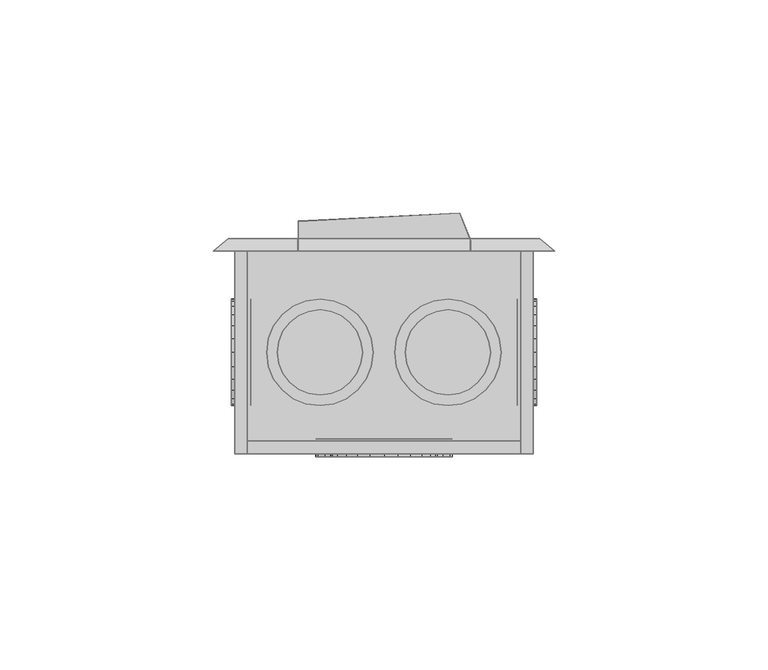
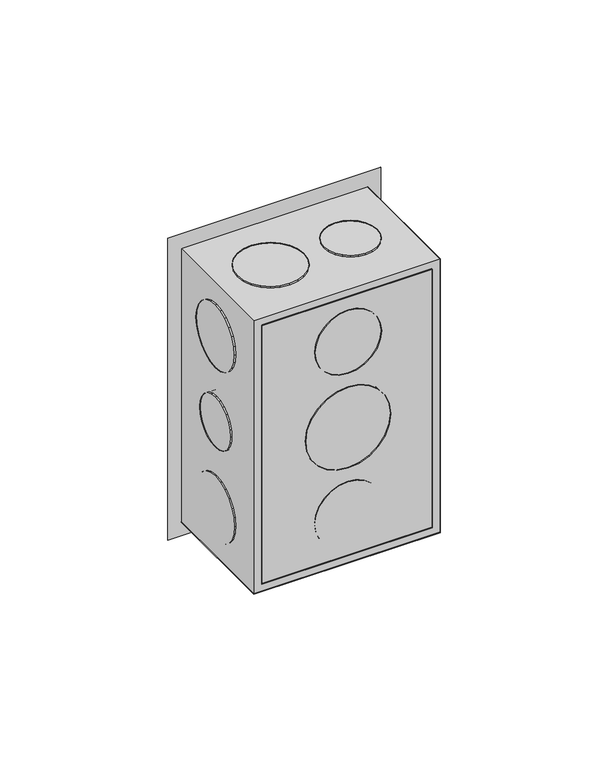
"""IFC4 building model written with IfcOpenShell, lengths in millimetres: proxy geometry,  210905 :  210905."""

from ifc_helpers import new_model, si_unit, origin, place, context, project, spatial, triangles, source, transform, mapped, element, save


def generic_models_bdb86bba(model_context):
    return source(origin(), model_context, "Body", "Tessellation", [
        triangles([(11078.2005432, 29795.4999207, 1254.3000378), (11081.2003601, 29795.4999207, 1148.7000154), (11078.2005432, 29795.4999207, 1145.6999805), (11081.2003601, 29795.4999207, 1251.2999302), (11148.1997589, 29795.4999207, 1254.3000378), (11145.199942, 29795.4999207, 1251.2999302), (11148.1997589, 29795.4999207, 1145.6999805), (11145.199942, 29795.4999207, 1148.7000154), (11081.2003601, 29748.0004944, 1251.2999302), (11081.2003601, 29748.0004944, 1148.7000154), (11148.1997589, 29748.0004944, 1254.3000378), (11148.1997589, 29748.0004944, 1145.6999805), (11145.199942, 29748.0004944, 1251.2999302), (11078.2005432, 29748.0004944, 1145.6999805), (11145.199942, 29748.0004944, 1148.7000154), (11078.2005432, 29748.0004944, 1254.3000378), (11081.2003601, 29751.0003113, 1251.2999302), (11145.199942, 29751.0003113, 1148.7000154), (11081.2003601, 29751.0003113, 1148.7000154), (11145.199942, 29751.0003113, 1251.2999302), (11099.3004181, 29751.5002808, 1191.9999887), (11105.200058, 29751.5002808, 1186.0999855), (11101.9002594, 29751.5002808, 1188.6999722), (11097.7005157, 29751.5002808, 1195.8999687), (11108.999826, 29751.5002808, 1184.5000105), (11097.2005463, 29751.5002808, 1200.0000092), (11113.1995697, 29751.5002808, 1183.9999683), (11097.7005157, 29751.5002808, 1204.0999769), (11117.3004822, 29751.5002808, 1184.5000105), (11099.3004181, 29751.5002808, 1208.0000296), (11121.2002441, 29751.5002808, 1186.0999855), (11101.9002594, 29751.5002808, 1211.2999735), (11124.5000427, 29751.5002808, 1188.6999722), (11105.200058, 29751.5002808, 1213.9000328), (11126.9998901, 29751.5002808, 1191.9999887), (11108.999826, 29751.5002808, 1215.5000078), (11128.5997925, 29751.5002808, 1195.8999687), (11113.1995697, 29751.5002808, 1215.9999773), (11129.1997559, 29751.5002808, 1200.0000092), (11117.3004822, 29751.5002808, 1215.5000078), (11128.5997925, 29751.5002808, 1204.0999769), (11121.2002441, 29751.5002808, 1213.9000328), (11126.9998901, 29751.5002808, 1208.0000296), (11124.5000427, 29751.5002808, 1211.2999735), (11117.3004822, 29747.3005371, 1184.5000105), (11113.1995697, 29747.3005371, 1183.9999683), (11108.999826, 29747.3005371, 1184.5000105), (11105.200058, 29747.3005371, 1186.0999855), (11101.9002594, 29747.3005371, 1188.6999722), (11099.3004181, 29747.3005371, 1191.9999887), (11097.7005157, 29747.3005371, 1195.8999687), (11097.2005463, 29747.3005371, 1200.0000092), (11097.7005157, 29747.3005371, 1204.0999769), (11099.3004181, 29747.3005371, 1208.0000296), (11101.9002594, 29747.3005371, 1211.2999735), (11105.200058, 29747.3005371, 1213.9000328), (11108.999826, 29747.3005371, 1215.5000078), (11113.1995697, 29747.3005371, 1215.9999773), (11117.3004822, 29747.3005371, 1215.5000078), (11121.2002441, 29747.3005371, 1213.9000328), (11124.5000427, 29747.3005371, 1211.2999735), (11126.9998901, 29747.3005371, 1208.0000296), (11128.5997925, 29747.3005371, 1204.0999769), (11129.1997559, 29747.3005371, 1200.0000092), (11128.5997925, 29747.3005371, 1195.8999687), (11126.9998901, 29747.3005371, 1191.9999887), (11124.5000427, 29747.3005371, 1188.6999722), (11121.2002441, 29747.3005371, 1186.0999855), (11102.300235, 29751.5002808, 1227.8000565), (11106.8999542, 29751.5002808, 1223.2000465), (11104.3001129, 29751.5002808, 1225.2000698), (11101.1003082, 29751.5002808, 1230.8000187), (11109.8997711, 29751.5002808, 1221.8999805), (11100.7003326, 29751.5002808, 1233.9999687), (11113.1995697, 29751.5002808, 1221.500005), (11101.1003082, 29751.5002808, 1237.2000641), (11116.4005371, 29751.5002808, 1221.8999805), (11102.300235, 29751.5002808, 1240.3000202), (11119.400354, 29751.5002808, 1223.2000465), (11104.3001129, 29751.5002808, 1242.800013), (11122.0001953, 29751.5002808, 1225.2000698), (11124.0000732, 29751.5002808, 1227.8000565), (11106.8999542, 29751.5002808, 1244.8000362), (11109.8997711, 29751.5002808, 1246.0999569), (11125.2, 29751.5002808, 1230.8000187), (11113.1995697, 29751.5002808, 1246.4999325), (11125.6999695, 29751.5002808, 1233.9999687), (11116.4005371, 29751.5002808, 1246.0999569), (11125.2, 29751.5002808, 1237.2000641), (11124.0000732, 29751.5002808, 1240.3000202), (11119.400354, 29751.5002808, 1244.8000362), (11122.0001953, 29751.5002808, 1242.800013), (11125.2, 29747.3005371, 1230.8000187), (11124.0000732, 29747.3005371, 1227.8000565), (11122.0001953, 29747.3005371, 1225.2000698), (11119.400354, 29747.3005371, 1223.2000465), (11116.4005371, 29747.3005371, 1221.8999805), (11113.1995697, 29747.3005371, 1221.500005), (11109.8997711, 29747.3005371, 1221.8999805), (11106.8999542, 29747.3005371, 1223.2000465), (11104.3001129, 29747.3005371, 1225.2000698), (11102.300235, 29747.3005371, 1227.8000565), (11101.1003082, 29747.3005371, 1230.8000187), (11100.7003326, 29747.3005371, 1233.9999687), (11101.1003082, 29747.3005371, 1237.2000641), (11102.300235, 29747.3005371, 1240.3000202), (11104.3001129, 29747.3005371, 1242.800013), (11106.8999542, 29747.3005371, 1244.8000362), (11109.8997711, 29747.3005371, 1246.0999569), (11113.1995697, 29747.3005371, 1246.4999325), (11116.4005371, 29747.3005371, 1246.0999569), (11119.400354, 29747.3005371, 1244.8000362), (11122.0001953, 29747.3005371, 1242.800013), (11124.0000732, 29747.3005371, 1240.3000202), (11125.2, 29747.3005371, 1237.2000641), (11125.6999695, 29747.3005371, 1233.9999687), (11106.8999542, 29747.3005371, 1155.1999821), (11102.300235, 29747.3005371, 1159.6999981), (11104.3001129, 29747.3005371, 1157.2000053), (11109.8997711, 29747.3005371, 1153.8999887), (11101.1003082, 29747.3005371, 1162.8000269), (11113.1995697, 29747.3005371, 1153.5000132), (11100.7003326, 29747.3005371, 1165.9999769), (11116.4005371, 29747.3005371, 1153.8999887), (11101.1003082, 29747.3005371, 1169.1999996), (11119.400354, 29747.3005371, 1155.1999821), (11102.300235, 29747.3005371, 1172.2000345), (11122.0001953, 29747.3005371, 1157.2000053), (11104.3001129, 29747.3005371, 1174.8000212), (11124.0000732, 29747.3005371, 1159.6999981), (11106.8999542, 29747.3005371, 1176.7999718), (11125.2, 29747.3005371, 1162.8000269), (11109.8997711, 29747.3005371, 1178.0999651), (11113.1995697, 29747.3005371, 1178.5000134), (11125.6999695, 29747.3005371, 1165.9999769), (11125.2, 29747.3005371, 1169.1999996), (11116.4005371, 29747.3005371, 1178.0999651), (11124.0000732, 29747.3005371, 1172.2000345), (11119.400354, 29747.3005371, 1176.7999718), (11122.0001953, 29747.3005371, 1174.8000212), (11109.8997711, 29751.5002808, 1178.0999651), (11113.1995697, 29751.5002808, 1178.5000134), (11106.8999542, 29751.5002808, 1176.7999718), (11104.3001129, 29751.5002808, 1174.8000212), (11102.300235, 29751.5002808, 1172.2000345), (11101.1003082, 29751.5002808, 1169.1999996), (11100.7003326, 29751.5002808, 1165.9999769), (11101.1003082, 29751.5002808, 1162.8000269), (11102.300235, 29751.5002808, 1159.6999981), (11104.3001129, 29751.5002808, 1157.2000053), (11106.8999542, 29751.5002808, 1155.1999821), (11109.8997711, 29751.5002808, 1153.8999887), (11113.1995697, 29751.5002808, 1153.5000132), (11116.4005371, 29751.5002808, 1153.8999887), (11119.400354, 29751.5002808, 1155.1999821), (11122.0001953, 29751.5002808, 1157.2000053), (11124.0000732, 29751.5002808, 1159.6999981), (11125.2, 29751.5002808, 1162.8000269), (11125.6999695, 29751.5002808, 1165.9999769), (11125.2, 29751.5002808, 1169.1999996), (11124.0000732, 29751.5002808, 1172.2000345), (11122.0001953, 29751.5002808, 1174.8000212), (11119.400354, 29751.5002808, 1176.7999718), (11116.4005371, 29751.5002808, 1178.0999651), (11082.0003113, 29766.7993469, 1191.3000315), (11082.0003113, 29763.0995728, 1195.0000237), (11082.0003113, 29764.6994751, 1192.9000065), (11082.0003113, 29762.0996338, 1197.4000225), (11082.0003113, 29769.1992004, 1190.3000198), (11082.0003113, 29761.7996521, 1200.0000092), (11082.0003113, 29771.7990417, 1189.9999655), (11082.0003113, 29774.2988892, 1190.3000198), (11082.0003113, 29762.0996338, 1202.5999958), (11082.0003113, 29763.0995728, 1204.9999947), (11082.0003113, 29776.801062, 1191.3000315), (11082.0003113, 29764.6994751, 1207.1000118), (11082.0003113, 29778.8009399, 1192.9000065), (11082.0003113, 29780.4008423, 1195.0000237), (11082.0003113, 29766.7993469, 1208.6999868), (11082.0003113, 29781.4007813, 1197.4000225), (11082.0003113, 29769.1992004, 1209.6999985), (11082.0003113, 29781.8007568, 1200.0000092), (11082.0003113, 29771.7990417, 1209.9999802), (11082.0003113, 29781.4007813, 1202.5999958), (11082.0003113, 29774.2988892, 1209.6999985), (11082.0003113, 29776.801062, 1208.6999868), (11082.0003113, 29780.4008423, 1204.9999947), (11082.0003113, 29778.8009399, 1207.1000118), (11077.3994293, 29771.7990417, 1189.9999655), (11077.3994293, 29769.1992004, 1190.3000198), (11077.3994293, 29774.2988892, 1190.3000198), (11077.3994293, 29776.801062, 1191.3000315), (11077.3994293, 29778.8009399, 1192.9000065), (11077.3994293, 29780.4008423, 1195.0000237), (11077.3994293, 29781.4007813, 1197.4000225), (11077.3994293, 29781.8007568, 1200.0000092), (11077.3994293, 29781.4007813, 1202.5999958), (11077.3994293, 29780.4008423, 1204.9999947), (11077.3994293, 29778.8009399, 1207.1000118), (11077.3994293, 29776.801062, 1208.6999868), (11077.3994293, 29774.2988892, 1209.6999985), (11077.3994293, 29771.7990417, 1209.9999802), (11077.3994293, 29769.1992004, 1209.6999985), (11077.3994293, 29766.7993469, 1208.6999868), (11077.3994293, 29764.6994751, 1207.1000118), (11077.3994293, 29763.0995728, 1204.9999947), (11077.3994293, 29762.0996338, 1202.5999958), (11077.3994293, 29761.7996521, 1200.0000092), (11077.3994293, 29762.0996338, 1197.4000225), (11077.3994293, 29763.0995728, 1195.0000237), (11077.3994293, 29764.6994751, 1192.9000065), (11077.3994293, 29766.7993469, 1191.3000315), (11082.0003113, 29765.4994263, 1223.2000465), (11082.0003113, 29760.899707, 1227.8000565), (11082.0003113, 29762.899585, 1225.2000698), (11082.0003113, 29768.4992432, 1221.8999805), (11082.0003113, 29759.6997803, 1230.8000187), (11082.0003113, 29759.2998047, 1233.9999687), (11082.0003113, 29771.7990417, 1221.500005), (11082.0003113, 29774.9988464, 1221.8999805), (11082.0003113, 29759.6997803, 1237.2000641), (11082.0003113, 29760.899707, 1240.3000202), (11082.0003113, 29778.0009888, 1223.2000465), (11082.0003113, 29780.6008301, 1225.2000698), (11082.0003113, 29762.899585, 1242.800013), (11082.0003113, 29782.600708, 1227.8000565), (11082.0003113, 29765.4994263, 1244.8000362), (11082.0003113, 29783.8006348, 1230.8000187), (11082.0003113, 29768.4992432, 1246.0999569), (11082.0003113, 29784.3006042, 1233.9999687), (11082.0003113, 29771.7990417, 1246.4999325), (11082.0003113, 29783.8006348, 1237.2000641), (11082.0003113, 29774.9988464, 1246.0999569), (11082.0003113, 29782.600708, 1240.3000202), (11082.0003113, 29778.0009888, 1244.8000362), (11082.0003113, 29780.6008301, 1242.800013), (11077.3994293, 29771.7990417, 1221.500005), (11077.3994293, 29768.4992432, 1221.8999805), (11077.3994293, 29774.9988464, 1221.8999805), (11077.3994293, 29778.0009888, 1223.2000465), (11077.3994293, 29780.6008301, 1225.2000698), (11077.3994293, 29782.600708, 1227.8000565), (11077.3994293, 29783.8006348, 1230.8000187), (11077.3994293, 29784.3006042, 1233.9999687), (11077.3994293, 29783.8006348, 1237.2000641), (11077.3994293, 29782.600708, 1240.3000202), (11077.3994293, 29780.6008301, 1242.800013), (11077.3994293, 29778.0009888, 1244.8000362), (11077.3994293, 29774.9988464, 1246.0999569), (11077.3994293, 29771.7990417, 1246.4999325), (11077.3994293, 29768.4992432, 1246.0999569), (11077.3994293, 29765.4994263, 1244.8000362), (11077.3994293, 29762.899585, 1242.800013), (11077.3994293, 29760.899707, 1240.3000202), (11077.3994293, 29759.6997803, 1237.2000641), (11077.3994293, 29759.2998047, 1233.9999687), (11077.3994293, 29759.6997803, 1230.8000187), (11077.3994293, 29760.899707, 1227.8000565), (11077.3994293, 29762.899585, 1225.2000698), (11077.3994293, 29765.4994263, 1223.2000465), (11077.3994293, 29760.899707, 1159.6999981), (11077.3994293, 29765.4994263, 1155.1999821), (11077.3994293, 29762.899585, 1157.2000053), (11077.3994293, 29759.6997803, 1162.8000269), (11077.3994293, 29768.4992432, 1153.8999887), (11077.3994293, 29759.2998047, 1165.9999769), (11077.3994293, 29771.7990417, 1153.5000132), (11077.3994293, 29759.6997803, 1169.1999996), (11077.3994293, 29774.9988464, 1153.8999887), (11077.3994293, 29760.899707, 1172.2000345), (11077.3994293, 29778.0009888, 1155.1999821), (11077.3994293, 29762.899585, 1174.8000212), (11077.3994293, 29780.6008301, 1157.2000053), (11077.3994293, 29765.4994263, 1176.7999718), (11077.3994293, 29782.600708, 1159.6999981), (11077.3994293, 29768.4992432, 1178.0999651), (11077.3994293, 29783.8006348, 1162.8000269), (11077.3994293, 29771.7990417, 1178.5000134), (11077.3994293, 29784.3006042, 1165.9999769), (11077.3994293, 29774.9988464, 1178.0999651), (11077.3994293, 29783.8006348, 1169.1999996), (11077.3994293, 29778.0009888, 1176.7999718), (11077.3994293, 29782.600708, 1172.2000345), (11077.3994293, 29780.6008301, 1174.8000212), (11082.0003113, 29768.4992432, 1178.0999651), (11082.0003113, 29771.7990417, 1178.5000134), (11082.0003113, 29774.9988464, 1178.0999651), (11082.0003113, 29778.0009888, 1176.7999718), (11082.0003113, 29780.6008301, 1174.8000212), (11082.0003113, 29782.600708, 1172.2000345), (11082.0003113, 29783.8006348, 1169.1999996), (11082.0003113, 29784.3006042, 1165.9999769), (11082.0003113, 29783.8006348, 1162.8000269), (11082.0003113, 29782.600708, 1159.6999981), (11082.0003113, 29780.6008301, 1157.2000053), (11082.0003113, 29778.0009888, 1155.1999821), (11082.0003113, 29774.9988464, 1153.8999887), (11082.0003113, 29771.7990417, 1153.5000132), (11082.0003113, 29768.4992432, 1153.8999887), (11082.0003113, 29765.4994263, 1155.1999821), (11082.0003113, 29762.899585, 1157.2000053), (11082.0003113, 29760.899707, 1159.6999981), (11082.0003113, 29759.6997803, 1162.8000269), (11082.0003113, 29759.2998047, 1165.9999769), (11082.0003113, 29759.6997803, 1169.1999996), (11082.0003113, 29760.899707, 1172.2000345), (11082.0003113, 29762.899585, 1174.8000212), (11082.0003113, 29765.4994263, 1176.7999718), (11144.3999908, 29763.0995728, 1195.0000237), (11144.3999908, 29766.7993469, 1191.3000315), (11144.3999908, 29764.6994751, 1192.9000065), (11144.3999908, 29762.0996338, 1197.4000225), (11144.3999908, 29769.1992004, 1190.3000198), (11144.3999908, 29761.7996521, 1200.0000092), (11144.3999908, 29771.7990417, 1189.9999655), (11144.3999908, 29762.0996338, 1202.5999958), (11144.3999908, 29774.2988892, 1190.3000198), (11144.3999908, 29763.0995728, 1204.9999947), (11144.3999908, 29776.801062, 1191.3000315), (11144.3999908, 29764.6994751, 1207.1000118), (11144.3999908, 29778.8009399, 1192.9000065), (11144.3999908, 29766.7993469, 1208.6999868), (11144.3999908, 29780.4008423, 1195.0000237), (11144.3999908, 29769.1992004, 1209.6999985), (11144.3999908, 29781.4007813, 1197.4000225), (11144.3999908, 29781.8007568, 1200.0000092), (11144.3999908, 29771.7990417, 1209.9999802), (11144.3999908, 29774.2988892, 1209.6999985), (11144.3999908, 29781.4007813, 1202.5999958), (11144.3999908, 29776.801062, 1208.6999868), (11144.3999908, 29780.4008423, 1204.9999947), (11144.3999908, 29778.8009399, 1207.1000118), (11148.9997101, 29769.1992004, 1209.6999985), (11148.9997101, 29771.7990417, 1209.9999802), (11148.9997101, 29774.2988892, 1209.6999985), (11148.9997101, 29776.801062, 1208.6999868), (11148.9997101, 29778.8009399, 1207.1000118), (11148.9997101, 29780.4008423, 1204.9999947), (11148.9997101, 29781.4007813, 1202.5999958), (11148.9997101, 29781.8007568, 1200.0000092), (11148.9997101, 29781.4007813, 1197.4000225), (11148.9997101, 29780.4008423, 1195.0000237), (11148.9997101, 29778.8009399, 1192.9000065), (11148.9997101, 29776.801062, 1191.3000315), (11148.9997101, 29774.2988892, 1190.3000198), (11148.9997101, 29771.7990417, 1189.9999655), (11148.9997101, 29769.1992004, 1190.3000198), (11148.9997101, 29766.7993469, 1191.3000315), (11148.9997101, 29764.6994751, 1192.9000065), (11148.9997101, 29763.0995728, 1195.0000237), (11148.9997101, 29762.0996338, 1197.4000225), (11148.9997101, 29761.7996521, 1200.0000092), (11148.9997101, 29762.0996338, 1202.5999958), (11148.9997101, 29763.0995728, 1204.9999947), (11148.9997101, 29764.6994751, 1207.1000118), (11148.9997101, 29766.7993469, 1208.6999868), (11144.3999908, 29760.899707, 1159.6999981), (11144.3999908, 29765.4994263, 1155.1999821), (11144.3999908, 29762.899585, 1157.2000053), (11144.3999908, 29759.6997803, 1162.8000269), (11144.3999908, 29768.4992432, 1153.8999887), (11144.3999908, 29759.2998047, 1165.9999769), (11144.3999908, 29771.7990417, 1153.5000132), (11144.3999908, 29759.6997803, 1169.1999996), (11144.3999908, 29774.9988464, 1153.8999887), (11144.3999908, 29760.899707, 1172.2000345), (11144.3999908, 29778.0009888, 1155.1999821), (11144.3999908, 29762.899585, 1174.8000212), (11144.3999908, 29780.6008301, 1157.2000053), (11144.3999908, 29765.4994263, 1176.7999718), (11144.3999908, 29782.600708, 1159.6999981), (11144.3999908, 29768.4992432, 1178.0999651), (11144.3999908, 29783.8006348, 1162.8000269), (11144.3999908, 29771.7990417, 1178.5000134), (11144.3999908, 29784.3006042, 1165.9999769), (11144.3999908, 29774.9988464, 1178.0999651), (11144.3999908, 29783.8006348, 1169.1999996), (11144.3999908, 29778.0009888, 1176.7999718), (11144.3999908, 29782.600708, 1172.2000345), (11144.3999908, 29780.6008301, 1174.8000212), (11148.9997101, 29768.4992432, 1178.0999651), (11148.9997101, 29771.7990417, 1178.5000134), (11148.9997101, 29774.9988464, 1178.0999651), (11148.9997101, 29778.0009888, 1176.7999718), (11148.9997101, 29780.6008301, 1174.8000212), (11148.9997101, 29782.600708, 1172.2000345), (11148.9997101, 29783.8006348, 1169.1999996), (11148.9997101, 29784.3006042, 1165.9999769), (11148.9997101, 29783.8006348, 1162.8000269), (11148.9997101, 29782.600708, 1159.6999981), (11148.9997101, 29780.6008301, 1157.2000053), (11148.9997101, 29778.0009888, 1155.1999821), (11148.9997101, 29774.9988464, 1153.8999887), (11148.9997101, 29771.7990417, 1153.5000132), (11148.9997101, 29768.4992432, 1153.8999887), (11148.9997101, 29765.4994263, 1155.1999821), (11148.9997101, 29762.899585, 1157.2000053), (11148.9997101, 29760.899707, 1159.6999981), (11148.9997101, 29759.6997803, 1162.8000269), (11148.9997101, 29759.2998047, 1165.9999769), (11148.9997101, 29759.6997803, 1169.1999996), (11148.9997101, 29760.899707, 1172.2000345), (11148.9997101, 29762.899585, 1174.8000212), (11148.9997101, 29765.4994263, 1176.7999718), (11148.9997101, 29765.4994263, 1223.2000465), (11148.9997101, 29760.899707, 1227.8000565), (11148.9997101, 29762.899585, 1225.2000698), (11148.9997101, 29768.4992432, 1221.8999805), (11148.9997101, 29759.6997803, 1230.8000187), (11148.9997101, 29759.2998047, 1233.9999687), (11148.9997101, 29771.7990417, 1221.500005), (11148.9997101, 29774.9988464, 1221.8999805), (11148.9997101, 29759.6997803, 1237.2000641), (11148.9997101, 29760.899707, 1240.3000202), (11148.9997101, 29778.0009888, 1223.2000465), (11148.9997101, 29780.6008301, 1225.2000698), (11148.9997101, 29762.899585, 1242.800013), (11148.9997101, 29782.600708, 1227.8000565), (11148.9997101, 29765.4994263, 1244.8000362), (11148.9997101, 29783.8006348, 1230.8000187), (11148.9997101, 29768.4992432, 1246.0999569), (11148.9997101, 29784.3006042, 1233.9999687), (11148.9997101, 29771.7990417, 1246.4999325), (11148.9997101, 29783.8006348, 1237.2000641), (11148.9997101, 29774.9988464, 1246.0999569), (11148.9997101, 29782.600708, 1240.3000202), (11148.9997101, 29778.0009888, 1244.8000362), (11148.9997101, 29780.6008301, 1242.800013), (11144.3999908, 29771.7990417, 1221.500005), (11144.3999908, 29768.4992432, 1221.8999805), (11144.3999908, 29774.9988464, 1221.8999805), (11144.3999908, 29778.0009888, 1223.2000465), (11144.3999908, 29780.6008301, 1225.2000698), (11144.3999908, 29782.600708, 1227.8000565), (11144.3999908, 29783.8006348, 1230.8000187), (11144.3999908, 29784.3006042, 1233.9999687), (11144.3999908, 29783.8006348, 1237.2000641), (11144.3999908, 29782.600708, 1240.3000202), (11144.3999908, 29780.6008301, 1242.800013), (11144.3999908, 29778.0009888, 1244.8000362), (11144.3999908, 29774.9988464, 1246.0999569), (11144.3999908, 29771.7990417, 1246.4999325), (11144.3999908, 29768.4992432, 1246.0999569), (11144.3999908, 29765.4994263, 1244.8000362), (11144.3999908, 29762.899585, 1242.800013), (11144.3999908, 29760.899707, 1240.3000202), (11144.3999908, 29759.6997803, 1237.2000641), (11144.3999908, 29759.2998047, 1233.9999687), (11144.3999908, 29759.6997803, 1230.8000187), (11144.3999908, 29760.899707, 1227.8000565), (11144.3999908, 29762.899585, 1225.2000698), (11144.3999908, 29765.4994263, 1223.2000465), (11087.2999878, 29765.4994263, 1250.9999485), (11091.899707, 29760.899707, 1250.9999485), (11089.2998657, 29762.899585, 1250.9999485), (11086.100061, 29768.4992432, 1250.9999485), (11094.8995239, 29759.6997803, 1250.9999485), (11098.2004852, 29759.2998047, 1250.9999485), (11085.7000854, 29771.7990417, 1250.9999485), (11086.100061, 29774.9988464, 1250.9999485), (11101.4002899, 29759.6997803, 1250.9999485), (11104.4001068, 29760.899707, 1250.9999485), (11087.2999878, 29778.0009888, 1250.9999485), (11089.2998657, 29780.6008301, 1250.9999485), (11106.9999481, 29762.899585, 1250.9999485), (11108.999826, 29765.4994263, 1250.9999485), (11091.899707, 29782.600708, 1250.9999485), (11094.8995239, 29783.8006348, 1250.9999485), (11110.1997528, 29768.4992432, 1250.9999485), (11098.2004852, 29784.3006042, 1250.9999485), (11110.6997223, 29771.7990417, 1250.9999485), (11101.4002899, 29783.8006348, 1250.9999485), (11110.1997528, 29774.9988464, 1250.9999485), (11108.999826, 29778.0009888, 1250.9999485), (11104.4001068, 29782.600708, 1250.9999485), (11106.9999481, 29780.6008301, 1250.9999485), (11098.2004852, 29759.2998047, 1255.1999828), (11101.4002899, 29759.6997803, 1255.1999828), (11094.8995239, 29759.6997803, 1255.1999828), (11091.899707, 29760.899707, 1255.1999828), (11089.2998657, 29762.899585, 1255.1999828), (11087.2999878, 29765.4994263, 1255.1999828), (11086.100061, 29768.4992432, 1255.1999828), (11085.7000854, 29771.7990417, 1255.1999828), (11086.100061, 29774.9988464, 1255.1999828), (11087.2999878, 29778.0009888, 1255.1999828), (11089.2998657, 29780.6008301, 1255.1999828), (11091.899707, 29782.600708, 1255.1999828), (11094.8995239, 29783.8006348, 1255.1999828), (11098.2004852, 29784.3006042, 1255.1999828), (11101.4002899, 29783.8006348, 1255.1999828), (11104.4001068, 29782.600708, 1255.1999828), (11106.9999481, 29780.6008301, 1255.1999828), (11108.999826, 29778.0009888, 1255.1999828), (11110.1997528, 29774.9988464, 1255.1999828), (11110.6997223, 29771.7990417, 1255.1999828), (11110.1997528, 29768.4992432, 1255.1999828), (11108.999826, 29765.4994263, 1255.1999828), (11106.9999481, 29762.899585, 1255.1999828), (11104.4001068, 29760.899707, 1255.1999828), (11119.5003479, 29766.7993469, 1250.9999485), (11123.2001221, 29763.0995728, 1250.9999485), (11121.1002502, 29764.6994751, 1250.9999485), (11125.5999756, 29762.0996338, 1250.9999485), (11118.5004089, 29769.1992004, 1250.9999485), (11128.1998169, 29761.7996521, 1250.9999485), (11118.2004272, 29771.7990417, 1250.9999485), (11118.5004089, 29774.2988892, 1250.9999485), (11130.7996582, 29762.0996338, 1250.9999485), (11133.1995117, 29763.0995728, 1250.9999485), (11119.5003479, 29776.801062, 1250.9999485), (11135.2005524, 29764.6994751, 1250.9999485), (11121.1002502, 29778.8009399, 1250.9999485), (11123.2001221, 29780.4008423, 1250.9999485), (11136.8004547, 29766.7993469, 1250.9999485), (11137.8003937, 29769.1992004, 1250.9999485), (11125.5999756, 29781.4007813, 1250.9999485), (11128.1998169, 29781.8007568, 1250.9999485), (11138.2003693, 29771.7990417, 1250.9999485), (11130.7996582, 29781.4007813, 1250.9999485), (11137.8003937, 29774.2988892, 1250.9999485), (11133.1995117, 29780.4008423, 1250.9999485), (11136.8004547, 29776.801062, 1250.9999485), (11135.2005524, 29778.8009399, 1250.9999485), (11130.7996582, 29762.0996338, 1255.1999828), (11133.1995117, 29763.0995728, 1255.1999828), (11128.1998169, 29761.7996521, 1255.1999828), (11125.5999756, 29762.0996338, 1255.1999828), (11123.2001221, 29763.0995728, 1255.1999828), (11121.1002502, 29764.6994751, 1255.1999828), (11119.5003479, 29766.7993469, 1255.1999828), (11118.5004089, 29769.1992004, 1255.1999828), (11118.2004272, 29771.7990417, 1255.1999828), (11118.5004089, 29774.2988892, 1255.1999828), (11119.5003479, 29776.801062, 1255.1999828), (11121.1002502, 29778.8009399, 1255.1999828), (11123.2001221, 29780.4008423, 1255.1999828), (11125.5999756, 29781.4007813, 1255.1999828), (11128.1998169, 29781.8007568, 1255.1999828), (11130.7996582, 29781.4007813, 1255.1999828), (11133.1995117, 29780.4008423, 1255.1999828), (11135.2005524, 29778.8009399, 1255.1999828), (11136.8004547, 29776.801062, 1255.1999828), (11137.8003937, 29774.2988892, 1255.1999828), (11138.2003693, 29771.7990417, 1255.1999828), (11137.8003937, 29769.1992004, 1255.1999828), (11136.8004547, 29766.7993469, 1255.1999828), (11135.2005524, 29764.6994751, 1255.1999828), (11089.4998535, 29766.7993469, 1144.8000355), (11093.1996277, 29763.0995728, 1144.8000355), (11091.0997559, 29764.6994751, 1144.8000355), (11095.5994812, 29762.0996338, 1144.8000355), (11088.4999146, 29769.1992004, 1144.8000355), (11098.2004852, 29761.7996521, 1144.8000355), (11088.1999329, 29771.7990417, 1144.8000355), (11088.4999146, 29774.2988892, 1144.8000355), (11100.8003265, 29762.0996338, 1144.8000355), (11103.2001801, 29763.0995728, 1144.8000355), (11089.4998535, 29776.801062, 1144.8000355), (11105.200058, 29764.6994751, 1144.8000355), (11091.0997559, 29778.8009399, 1144.8000355), (11093.1996277, 29780.4008423, 1144.8000355), (11106.7999603, 29766.7993469, 1144.8000355), (11107.7998993, 29769.1992004, 1144.8000355), (11095.5994812, 29781.4007813, 1144.8000355), (11098.2004852, 29781.8007568, 1144.8000355), (11108.1998749, 29771.7990417, 1144.8000355), (11100.8003265, 29781.4007813, 1144.8000355), (11107.7998993, 29774.2988892, 1144.8000355), (11103.2001801, 29780.4008423, 1144.8000355), (11106.7999603, 29776.801062, 1144.8000355), (11105.200058, 29778.8009399, 1144.8000355), (11095.5994812, 29762.0996338, 1149.099991), (11098.2004852, 29761.7996521, 1149.099991), (11093.1996277, 29763.0995728, 1149.099991), (11091.0997559, 29764.6994751, 1149.099991), (11089.4998535, 29766.7993469, 1149.099991), (11088.4999146, 29769.1992004, 1149.099991), (11088.1999329, 29771.7990417, 1149.099991), (11088.4999146, 29774.2988892, 1149.099991), (11089.4998535, 29776.801062, 1149.099991), (11091.0997559, 29778.8009399, 1149.099991), (11093.1996277, 29780.4008423, 1149.099991), (11095.5994812, 29781.4007813, 1149.099991), (11098.2004852, 29781.8007568, 1149.099991), (11100.8003265, 29781.4007813, 1149.099991), (11103.2001801, 29780.4008423, 1149.099991), (11105.200058, 29778.8009399, 1149.099991), (11106.7999603, 29776.801062, 1149.099991), (11107.7998993, 29774.2988892, 1149.099991), (11108.1998749, 29771.7990417, 1149.099991), (11107.7998993, 29769.1992004, 1149.099991), (11106.7999603, 29766.7993469, 1149.099991), (11105.200058, 29764.6994751, 1149.099991), (11103.2001801, 29763.0995728, 1149.099991), (11100.8003265, 29762.0996338, 1149.099991), (11117.3004822, 29765.4994263, 1144.8000355), (11121.9002014, 29760.899707, 1144.8000355), (11119.3003601, 29762.899585, 1144.8000355), (11116.1005554, 29768.4992432, 1144.8000355), (11124.9000183, 29759.6997803, 1144.8000355), (11128.1998169, 29759.2998047, 1144.8000355), (11115.7005798, 29771.7990417, 1144.8000355), (11116.1005554, 29774.9988464, 1144.8000355), (11131.3996216, 29759.6997803, 1144.8000355), (11134.3994385, 29760.899707, 1144.8000355), (11117.3004822, 29778.0009888, 1144.8000355), (11119.3003601, 29780.6008301, 1144.8000355), (11137.0004425, 29762.899585, 1144.8000355), (11139.0003204, 29765.4994263, 1144.8000355), (11121.9002014, 29782.600708, 1144.8000355), (11124.9000183, 29783.8006348, 1144.8000355), (11140.2002472, 29768.4992432, 1144.8000355), (11128.1998169, 29784.3006042, 1144.8000355), (11140.7002167, 29771.7990417, 1144.8000355), (11131.3996216, 29783.8006348, 1144.8000355), (11140.2002472, 29774.9988464, 1144.8000355), (11139.0003204, 29778.0009888, 1144.8000355), (11134.3994385, 29782.600708, 1144.8000355), (11137.0004425, 29780.6008301, 1144.8000355), (11131.3996216, 29759.6997803, 1149.099991), (11134.3994385, 29760.899707, 1149.099991), (11128.1998169, 29759.2998047, 1149.099991), (11124.9000183, 29759.6997803, 1149.099991), (11121.9002014, 29760.899707, 1149.099991), (11119.3003601, 29762.899585, 1149.099991), (11117.3004822, 29765.4994263, 1149.099991), (11116.1005554, 29768.4992432, 1149.099991), (11115.7005798, 29771.7990417, 1149.099991), (11116.1005554, 29774.9988464, 1149.099991), (11117.3004822, 29778.0009888, 1149.099991), (11119.3003601, 29780.6008301, 1149.099991), (11121.9002014, 29782.600708, 1149.099991), (11124.9000183, 29783.8006348, 1149.099991), (11128.1998169, 29784.3006042, 1149.099991), (11131.3996216, 29783.8006348, 1149.099991), (11134.3994385, 29782.600708, 1149.099991), (11137.0004425, 29780.6008301, 1149.099991), (11139.0003204, 29778.0009888, 1149.099991), (11140.2002472, 29774.9988464, 1149.099991), (11140.7002167, 29771.7990417, 1149.099991), (11140.2002472, 29768.4992432, 1149.099991), (11139.0003204, 29765.4994263, 1149.099991), (11137.0004425, 29762.899585, 1149.099991), (11153.1994537, 29795.4999207, 1139.9999651), (11092.9996399, 29795.4999207, 1188.2999966), (11073.1996857, 29795.4999207, 1139.9999651), (11133.3994995, 29795.4999207, 1188.2999966), (11153.1994537, 29795.4999207, 1259.9999805), (11133.3994995, 29795.4999207, 1211.7000217), (11073.1996857, 29795.4999207, 1259.9999805), (11092.9996399, 29795.4999207, 1211.7000217), (11133.3994995, 29798.4997375, 1188.2999966), (11133.3994995, 29798.4997375, 1211.7000217), (11092.9996399, 29798.4997375, 1188.2999966), (11092.9996399, 29798.4997375, 1211.7000217), (11076.699472, 29798.4997375, 1143.4999695), (11076.699472, 29798.4997375, 1256.5000488), (11149.6996674, 29798.4997375, 1143.4999695), (11149.6996674, 29798.4997375, 1256.5000488), (11093.0996338, 29802.4994934, 1188.1000088), (11133.4994934, 29795.4999207, 1188.1000088), (11093.0996338, 29795.4999207, 1188.1000088), (11130.8996521, 29804.3993774, 1188.1000088), (11133.4994934, 29797.9997681, 1188.1000088), (11093.0996338, 29795.4999207, 1211.500034), (11133.4994934, 29795.4999207, 1211.500034), (11093.0996338, 29802.4994934, 1211.500034), (11130.8996521, 29804.3993774, 1211.500034), (11133.4994934, 29797.9997681, 1211.500034)], [[1, 2, 3], [2, 1, 4], [5, 4, 1], [4, 5, 6], [3, 2, 7], [7, 2, 8], [7, 8, 6], [7, 6, 5], [2, 9, 10], [9, 2, 4], [7, 11, 12], [11, 7, 5], [4, 13, 9], [13, 4, 6], [3, 12, 14], [12, 3, 7], [13, 8, 15], [8, 13, 6], [16, 3, 14], [3, 16, 1], [15, 2, 10], [2, 15, 8], [11, 1, 16], [1, 11, 5], [12, 10, 14], [10, 12, 15], [11, 15, 12], [15, 11, 13], [14, 10, 16], [16, 10, 9], [16, 9, 13], [16, 13, 11], [17, 18, 19], [18, 17, 20], [18, 13, 15], [13, 18, 20], [19, 15, 10], [15, 19, 18], [9, 19, 10], [19, 9, 17], [13, 17, 9], [17, 13, 20], [15, 9, 10], [9, 15, 13], [21, 22, 23], [22, 21, 24], [25, 22, 24], [25, 24, 26], [27, 25, 26], [27, 26, 28], [29, 27, 28], [29, 28, 30], [31, 29, 30], [31, 30, 32], [31, 32, 33], [33, 32, 34], [33, 34, 35], [35, 34, 36], [35, 36, 37], [37, 36, 38], [37, 38, 39], [39, 38, 40], [39, 40, 41], [41, 40, 42], [41, 42, 43], [43, 42, 44], [27, 45, 46], [45, 27, 29], [25, 46, 47], [46, 25, 27], [22, 47, 48], [47, 22, 25], [23, 48, 49], [48, 23, 22], [50, 23, 49], [23, 50, 21], [51, 21, 50], [21, 51, 24], [52, 24, 51], [24, 52, 26], [53, 26, 52], [26, 53, 28], [54, 28, 53], [28, 54, 30], [55, 30, 54], [30, 55, 32], [56, 32, 55], [32, 56, 34], [57, 34, 56], [34, 57, 36], [58, 36, 57], [36, 58, 38], [59, 38, 58], [38, 59, 40], [60, 40, 59], [40, 60, 42], [61, 42, 60], [42, 61, 44], [43, 61, 62], [61, 43, 44], [41, 62, 63], [62, 41, 43], [39, 63, 64], [63, 39, 41], [37, 64, 65], [64, 37, 39], [35, 65, 66], [65, 35, 37], [33, 66, 67], [66, 33, 35], [31, 67, 68], [67, 31, 33], [29, 68, 45], [68, 29, 31], [48, 50, 49], [50, 48, 47], [51, 50, 47], [51, 47, 46], [52, 51, 46], [52, 46, 45], [53, 52, 45], [53, 45, 68], [54, 53, 68], [54, 68, 67], [54, 67, 55], [55, 67, 66], [55, 66, 56], [56, 66, 65], [56, 65, 57], [57, 65, 64], [57, 64, 58], [58, 64, 63], [58, 63, 59], [59, 63, 62], [59, 62, 60], [60, 62, 61], [69, 70, 71], [70, 69, 72], [73, 70, 72], [73, 72, 74], [75, 73, 74], [75, 74, 76], [77, 75, 76], [77, 76, 78], [79, 77, 78], [79, 78, 80], [81, 79, 80], [81, 80, 82], [82, 80, 83], [82, 83, 84], [82, 84, 85], [85, 84, 86], [85, 86, 87], [87, 86, 88], [87, 88, 89], [89, 88, 90], [90, 88, 91], [90, 91, 92], [82, 93, 94], [93, 82, 85], [81, 94, 95], [94, 81, 82], [79, 95, 96], [95, 79, 81], [77, 96, 97], [96, 77, 79], [75, 97, 98], [97, 75, 77], [73, 98, 99], [98, 73, 75], [70, 99, 100], [99, 70, 73], [71, 100, 101], [100, 71, 70], [102, 71, 101], [71, 102, 69], [103, 69, 102], [69, 103, 72], [104, 72, 103], [72, 104, 74], [105, 74, 104], [74, 105, 76], [106, 76, 105], [76, 106, 78], [107, 78, 106], [78, 107, 80], [108, 80, 107], [80, 108, 83], [109, 83, 108], [83, 109, 84], [110, 84, 109], [84, 110, 86], [111, 86, 110], [86, 111, 88], [112, 88, 111], [88, 112, 91], [113, 91, 112], [91, 113, 92], [90, 113, 114], [113, 90, 92], [89, 114, 115], [114, 89, 90], [87, 115, 116], [115, 87, 89], [85, 116, 93], [116, 85, 87], [100, 102, 101], [102, 100, 99], [103, 102, 99], [103, 99, 98], [104, 103, 98], [104, 98, 97], [105, 104, 97], [106, 105, 97], [106, 97, 96], [106, 96, 95], [106, 95, 107], [107, 95, 94], [107, 94, 108], [108, 94, 93], [108, 93, 109], [109, 93, 116], [109, 116, 110], [110, 116, 115], [110, 115, 111], [111, 115, 114], [111, 114, 112], [112, 114, 113], [117, 118, 119], [118, 117, 120], [121, 118, 120], [121, 120, 122], [123, 121, 122], [123, 122, 124], [125, 123, 124], [125, 124, 126], [127, 125, 126], [127, 126, 128], [127, 128, 129], [129, 128, 130], [129, 130, 131], [131, 130, 132], [131, 132, 133], [133, 132, 134], [134, 132, 135], [134, 135, 136], [134, 136, 137], [137, 136, 138], [137, 138, 139], [139, 138, 140], [134, 141, 133], [141, 134, 142], [133, 143, 131], [143, 133, 141], [131, 144, 129], [144, 131, 143], [129, 145, 127], [145, 129, 144], [127, 146, 125], [146, 127, 145], [125, 147, 123], [147, 125, 146], [123, 148, 121], [148, 123, 147], [121, 149, 118], [149, 121, 148], [118, 150, 119], [150, 118, 149], [150, 117, 119], [117, 150, 151], [151, 120, 117], [120, 151, 152], [152, 122, 120], [122, 152, 153], [153, 124, 122], [124, 153, 154], [154, 126, 124], [126, 154, 155], [155, 128, 126], [128, 155, 156], [156, 130, 128], [130, 156, 157], [157, 132, 130], [132, 157, 158], [158, 135, 132], [135, 158, 159], [159, 136, 135], [136, 159, 160], [160, 138, 136], [138, 160, 161], [161, 140, 138], [140, 161, 162], [140, 163, 139], [163, 140, 162], [139, 164, 137], [164, 139, 163], [137, 142, 134], [142, 137, 164], [149, 151, 150], [151, 149, 148], [152, 151, 148], [153, 152, 148], [153, 148, 147], [153, 147, 146], [154, 153, 146], [154, 146, 145], [155, 154, 145], [155, 145, 144], [156, 155, 144], [156, 144, 157], [157, 144, 143], [157, 143, 141], [157, 141, 158], [158, 141, 142], [158, 142, 159], [159, 142, 164], [159, 164, 160], [160, 164, 163], [160, 163, 161], [161, 163, 162], [165, 166, 167], [168, 166, 165], [168, 165, 169], [170, 168, 169], [170, 169, 171], [170, 171, 172], [173, 170, 172], [174, 173, 172], [174, 172, 175], [176, 174, 175], [176, 175, 177], [176, 177, 178], [176, 178, 179], [179, 178, 180], [179, 180, 181], [181, 180, 182], [181, 182, 183], [183, 182, 184], [183, 184, 185], [185, 184, 186], [186, 184, 187], [186, 187, 188], [189, 169, 190], [169, 189, 171], [191, 171, 189], [171, 191, 172], [192, 172, 191], [172, 192, 175], [193, 175, 192], [175, 193, 177], [194, 177, 193], [177, 194, 178], [195, 178, 194], [178, 195, 180], [196, 180, 195], [180, 196, 182], [197, 182, 196], [182, 197, 184], [198, 184, 197], [184, 198, 187], [199, 187, 198], [187, 199, 188], [186, 199, 200], [199, 186, 188], [185, 200, 201], [200, 185, 186], [183, 201, 202], [201, 183, 185], [181, 202, 203], [202, 181, 183], [179, 203, 204], [203, 179, 181], [176, 204, 205], [204, 176, 179], [174, 205, 206], [205, 174, 176], [173, 206, 207], [206, 173, 174], [170, 207, 208], [207, 170, 173], [168, 208, 209], [208, 168, 170], [166, 209, 210], [209, 166, 168], [167, 210, 211], [210, 167, 166], [212, 167, 211], [167, 212, 165], [190, 165, 212], [165, 190, 169], [210, 212, 211], [212, 210, 209], [190, 212, 209], [190, 209, 208], [189, 190, 208], [189, 208, 207], [191, 189, 207], [191, 207, 206], [192, 191, 206], [192, 206, 205], [192, 205, 193], [193, 205, 204], [193, 204, 194], [194, 204, 203], [194, 203, 195], [195, 203, 196], [196, 203, 202], [196, 202, 201], [196, 201, 197], [197, 201, 200], [197, 200, 198], [198, 200, 199], [213, 214, 215], [214, 213, 216], [217, 214, 216], [218, 217, 216], [218, 216, 219], [218, 219, 220], [221, 218, 220], [222, 221, 220], [222, 220, 223], [222, 223, 224], [222, 224, 225], [225, 224, 226], [225, 226, 227], [227, 226, 228], [227, 228, 229], [229, 228, 230], [229, 230, 231], [231, 230, 232], [231, 232, 233], [233, 232, 234], [233, 234, 235], [235, 234, 236], [237, 216, 238], [216, 237, 219], [239, 219, 237], [219, 239, 220], [240, 220, 239], [220, 240, 223], [241, 223, 240], [223, 241, 224], [242, 224, 241], [224, 242, 226], [243, 226, 242], [226, 243, 228], [244, 228, 243], [228, 244, 230], [245, 230, 244], [230, 245, 232], [246, 232, 245], [232, 246, 234], [247, 234, 246], [234, 247, 236], [235, 247, 248], [247, 235, 236], [233, 248, 249], [248, 233, 235], [231, 249, 250], [249, 231, 233], [229, 250, 251], [250, 229, 231], [227, 251, 252], [251, 227, 229], [225, 252, 253], [252, 225, 227], [222, 253, 254], [253, 222, 225], [221, 254, 255], [254, 221, 222], [218, 255, 256], [255, 218, 221], [217, 256, 257], [256, 217, 218], [214, 257, 258], [257, 214, 217], [215, 258, 259], [258, 215, 214], [260, 215, 259], [215, 260, 213], [238, 213, 260], [213, 238, 216], [258, 260, 259], [260, 258, 257], [238, 260, 257], [238, 257, 256], [237, 238, 256], [237, 256, 255], [239, 237, 255], [239, 255, 254], [240, 239, 254], [240, 254, 253], [241, 240, 253], [241, 253, 252], [241, 252, 242], [242, 252, 251], [242, 251, 243], [243, 251, 244], [244, 251, 250], [244, 250, 249], [244, 249, 245], [245, 249, 246], [246, 249, 248], [246, 248, 247], [261, 262, 263], [262, 261, 264], [265, 262, 264], [265, 264, 266], [267, 265, 266], [267, 266, 268], [269, 267, 268], [269, 268, 270], [271, 269, 270], [271, 270, 272], [273, 271, 272], [273, 272, 274], [273, 274, 275], [275, 274, 276], [275, 276, 277], [277, 276, 278], [277, 278, 279], [279, 278, 280], [279, 280, 281], [281, 280, 282], [281, 282, 283], [283, 282, 284], [285, 278, 276], [278, 285, 286], [286, 280, 278], [280, 286, 287], [287, 282, 280], [282, 287, 288], [288, 284, 282], [284, 288, 289], [284, 290, 283], [290, 284, 289], [283, 291, 281], [291, 283, 290], [281, 292, 279], [292, 281, 291], [279, 293, 277], [293, 279, 292], [277, 294, 275], [294, 277, 293], [275, 295, 273], [295, 275, 294], [273, 296, 271], [296, 273, 295], [271, 297, 269], [297, 271, 296], [269, 298, 267], [298, 269, 297], [267, 299, 265], [299, 267, 298], [265, 300, 262], [300, 265, 299], [262, 301, 263], [301, 262, 300], [301, 261, 263], [261, 301, 302], [302, 264, 261], [264, 302, 303], [303, 266, 264], [266, 303, 304], [304, 268, 266], [268, 304, 305], [305, 270, 268], [270, 305, 306], [306, 272, 270], [272, 306, 307], [307, 274, 272], [274, 307, 308], [308, 276, 274], [276, 308, 285], [300, 302, 301], [302, 300, 299], [303, 302, 299], [303, 299, 298], [304, 303, 298], [304, 298, 297], [305, 304, 297], [305, 297, 296], [306, 305, 296], [306, 296, 295], [306, 295, 307], [307, 295, 294], [307, 294, 308], [308, 294, 293], [308, 293, 285], [285, 293, 286], [286, 293, 292], [286, 292, 291], [286, 291, 287], [287, 291, 288], [288, 291, 290], [288, 290, 289], [309, 310, 311], [310, 309, 312], [313, 310, 312], [313, 312, 314], [315, 313, 314], [315, 314, 316], [317, 315, 316], [317, 316, 318], [319, 317, 318], [319, 318, 320], [319, 320, 321], [321, 320, 322], [321, 322, 323], [323, 322, 324], [323, 324, 325], [325, 324, 326], [326, 324, 327], [326, 327, 328], [326, 328, 329], [329, 328, 330], [329, 330, 331], [331, 330, 332], [333, 327, 324], [327, 333, 334], [334, 328, 327], [328, 334, 335], [335, 330, 328], [330, 335, 336], [336, 332, 330], [332, 336, 337], [332, 338, 331], [338, 332, 337], [331, 339, 329], [339, 331, 338], [329, 340, 326], [340, 329, 339], [326, 341, 325], [341, 326, 340], [325, 342, 323], [342, 325, 341], [323, 343, 321], [343, 323, 342], [321, 344, 319], [344, 321, 343], [319, 345, 317], [345, 319, 344], [317, 346, 315], [346, 317, 345], [315, 347, 313], [347, 315, 346], [313, 348, 310], [348, 313, 347], [310, 349, 311], [349, 310, 348], [349, 309, 311], [309, 349, 350], [350, 312, 309], [312, 350, 351], [351, 314, 312], [314, 351, 352], [352, 316, 314], [316, 352, 353], [353, 318, 316], [318, 353, 354], [354, 320, 318], [320, 354, 355], [355, 322, 320], [322, 355, 356], [356, 324, 322], [324, 356, 333], [348, 350, 349], [351, 350, 348], [351, 348, 347], [352, 351, 347], [352, 347, 346], [352, 346, 345], [353, 352, 345], [354, 353, 345], [354, 345, 344], [355, 354, 344], [355, 344, 343], [355, 343, 342], [355, 342, 356], [356, 342, 341], [356, 341, 333], [333, 341, 340], [333, 340, 334], [334, 340, 339], [334, 339, 335], [335, 339, 336], [336, 339, 338], [336, 338, 337], [357, 358, 359], [358, 357, 360], [361, 358, 360], [361, 360, 362], [363, 361, 362], [363, 362, 364], [365, 363, 364], [365, 364, 366], [367, 365, 366], [367, 366, 368], [369, 367, 368], [369, 368, 370], [369, 370, 371], [371, 370, 372], [371, 372, 373], [373, 372, 374], [373, 374, 375], [375, 374, 376], [375, 376, 377], [377, 376, 378], [377, 378, 379], [379, 378, 380], [381, 374, 372], [374, 381, 382], [382, 376, 374], [376, 382, 383], [383, 378, 376], [378, 383, 384], [384, 380, 378], [380, 384, 385], [380, 386, 379], [386, 380, 385], [379, 387, 377], [387, 379, 386], [377, 388, 375], [388, 377, 387], [375, 389, 373], [389, 375, 388], [373, 390, 371], [390, 373, 389], [371, 391, 369], [391, 371, 390], [369, 392, 367], [392, 369, 391], [367, 393, 365], [393, 367, 392], [365, 394, 363], [394, 365, 393], [363, 395, 361], [395, 363, 394], [361, 396, 358], [396, 361, 395], [358, 397, 359], [397, 358, 396], [397, 357, 359], [357, 397, 398], [398, 360, 357], [360, 398, 399], [399, 362, 360], [362, 399, 400], [400, 364, 362], [364, 400, 401], [401, 366, 364], [366, 401, 402], [402, 368, 366], [368, 402, 403], [403, 370, 368], [370, 403, 404], [404, 372, 370], [372, 404, 381], [396, 398, 397], [398, 396, 395], [399, 398, 395], [399, 395, 394], [400, 399, 394], [400, 394, 393], [401, 400, 393], [401, 393, 392], [402, 401, 392], [402, 392, 391], [402, 391, 403], [403, 391, 390], [403, 390, 404], [404, 390, 389], [404, 389, 381], [381, 389, 382], [382, 389, 388], [382, 388, 387], [382, 387, 383], [383, 387, 384], [384, 387, 386], [384, 386, 385], [405, 406, 407], [406, 405, 408], [409, 406, 408], [410, 409, 408], [410, 408, 411], [410, 411, 412], [413, 410, 412], [414, 413, 412], [414, 412, 415], [414, 415, 416], [414, 416, 417], [417, 416, 418], [417, 418, 419], [419, 418, 420], [419, 420, 421], [421, 420, 422], [421, 422, 423], [423, 422, 424], [423, 424, 425], [425, 424, 426], [425, 426, 427], [427, 426, 428], [429, 408, 430], [408, 429, 411], [431, 411, 429], [411, 431, 412], [432, 412, 431], [412, 432, 415], [433, 415, 432], [415, 433, 416], [434, 416, 433], [416, 434, 418], [435, 418, 434], [418, 435, 420], [436, 420, 435], [420, 436, 422], [437, 422, 436], [422, 437, 424], [438, 424, 437], [424, 438, 426], [439, 426, 438], [426, 439, 428], [427, 439, 440], [439, 427, 428], [425, 440, 441], [440, 425, 427], [423, 441, 442], [441, 423, 425], [421, 442, 443], [442, 421, 423], [419, 443, 444], [443, 419, 421], [417, 444, 445], [444, 417, 419], [414, 445, 446], [445, 414, 417], [413, 446, 447], [446, 413, 414], [410, 447, 448], [447, 410, 413], [409, 448, 449], [448, 409, 410], [406, 449, 450], [449, 406, 409], [407, 450, 451], [450, 407, 406], [452, 407, 451], [407, 452, 405], [430, 405, 452], [405, 430, 408], [450, 452, 451], [452, 450, 449], [430, 452, 449], [430, 449, 448], [429, 430, 448], [429, 448, 447], [431, 429, 447], [431, 447, 446], [432, 431, 446], [432, 446, 445], [433, 432, 445], [433, 445, 444], [433, 444, 434], [434, 444, 443], [434, 443, 435], [435, 443, 436], [436, 443, 442], [436, 442, 441], [436, 441, 437], [437, 441, 438], [438, 441, 440], [438, 440, 439], [453, 454, 455], [454, 453, 456], [457, 454, 456], [458, 457, 456], [458, 456, 459], [458, 459, 460], [461, 458, 460], [462, 461, 460], [462, 460, 463], [462, 463, 464], [462, 464, 465], [465, 464, 466], [466, 464, 467], [466, 467, 468], [466, 468, 469], [469, 468, 470], [469, 470, 471], [471, 470, 472], [471, 472, 473], [473, 472, 474], [474, 472, 475], [474, 475, 476], [461, 477, 458], [477, 461, 478], [458, 479, 457], [479, 458, 477], [457, 480, 454], [480, 457, 479], [454, 481, 455], [481, 454, 480], [481, 453, 455], [453, 481, 482], [482, 456, 453], [456, 482, 483], [483, 459, 456], [459, 483, 484], [484, 460, 459], [460, 484, 485], [485, 463, 460], [463, 485, 486], [486, 464, 463], [464, 486, 487], [487, 467, 464], [467, 487, 488], [488, 468, 467], [468, 488, 489], [489, 470, 468], [470, 489, 490], [490, 472, 470], [472, 490, 491], [491, 475, 472], [475, 491, 492], [492, 476, 475], [476, 492, 493], [476, 494, 474], [494, 476, 493], [474, 495, 473], [495, 474, 494], [473, 496, 471], [496, 473, 495], [471, 497, 469], [497, 471, 496], [469, 498, 466], [498, 469, 497], [466, 499, 465], [499, 466, 498], [465, 500, 462], [500, 465, 499], [462, 478, 461], [478, 462, 500], [480, 482, 481], [483, 482, 480], [483, 480, 479], [483, 479, 477], [484, 483, 477], [485, 484, 477], [485, 477, 478], [485, 478, 500], [486, 485, 500], [487, 486, 500], [487, 500, 499], [487, 499, 498], [487, 498, 488], [488, 498, 489], [489, 498, 497], [489, 497, 490], [490, 497, 496], [490, 496, 491], [491, 496, 495], [491, 495, 494], [491, 494, 492], [492, 494, 493], [501, 502, 503], [504, 502, 501], [504, 501, 505], [506, 504, 505], [506, 505, 507], [506, 507, 508], [509, 506, 508], [510, 509, 508], [510, 508, 511], [512, 510, 511], [512, 511, 513], [512, 513, 514], [512, 514, 515], [515, 514, 516], [516, 514, 517], [516, 517, 518], [516, 518, 519], [519, 518, 520], [519, 520, 521], [521, 520, 522], [521, 522, 523], [523, 522, 524], [510, 525, 509], [525, 510, 526], [509, 527, 506], [527, 509, 525], [506, 528, 504], [528, 506, 527], [504, 529, 502], [529, 504, 528], [502, 530, 503], [530, 502, 529], [530, 501, 503], [501, 530, 531], [531, 505, 501], [505, 531, 532], [532, 507, 505], [507, 532, 533], [533, 508, 507], [508, 533, 534], [534, 511, 508], [511, 534, 535], [535, 513, 511], [513, 535, 536], [536, 514, 513], [514, 536, 537], [537, 517, 514], [517, 537, 538], [538, 518, 517], [518, 538, 539], [539, 520, 518], [520, 539, 540], [540, 522, 520], [522, 540, 541], [541, 524, 522], [524, 541, 542], [524, 543, 523], [543, 524, 542], [523, 544, 521], [544, 523, 543], [521, 545, 519], [545, 521, 544], [519, 546, 516], [546, 519, 545], [516, 547, 515], [547, 516, 546], [515, 548, 512], [548, 515, 547], [512, 526, 510], [526, 512, 548], [529, 531, 530], [531, 529, 528], [532, 531, 528], [532, 528, 527], [533, 532, 527], [534, 533, 527], [534, 527, 525], [534, 525, 526], [535, 534, 526], [535, 526, 548], [535, 548, 536], [536, 548, 537], [537, 548, 547], [537, 547, 546], [537, 546, 538], [538, 546, 539], [539, 546, 545], [539, 545, 540], [540, 545, 544], [540, 544, 541], [541, 544, 543], [541, 543, 542], [549, 550, 551], [552, 550, 549], [552, 549, 553], [554, 552, 553], [554, 553, 555], [554, 555, 556], [557, 554, 556], [558, 557, 556], [558, 556, 559], [560, 558, 559], [560, 559, 561], [560, 561, 562], [560, 562, 563], [563, 562, 564], [564, 562, 565], [564, 565, 566], [564, 566, 567], [567, 566, 568], [567, 568, 569], [569, 568, 570], [569, 570, 571], [571, 570, 572], [554, 573, 552], [573, 554, 574], [552, 575, 550], [575, 552, 573], [550, 576, 551], [576, 550, 575], [576, 549, 551], [549, 576, 577], [577, 553, 549], [553, 577, 578], [578, 555, 553], [555, 578, 579], [579, 556, 555], [556, 579, 580], [580, 559, 556], [559, 580, 581], [581, 561, 559], [561, 581, 582], [582, 562, 561], [562, 582, 583], [583, 565, 562], [565, 583, 584], [584, 566, 565], [566, 584, 585], [585, 568, 566], [568, 585, 586], [586, 570, 568], [570, 586, 587], [587, 572, 570], [572, 587, 588], [572, 589, 571], [589, 572, 588], [571, 590, 569], [590, 571, 589], [569, 591, 567], [591, 569, 590], [567, 592, 564], [592, 567, 591], [564, 593, 563], [593, 564, 592], [563, 594, 560], [594, 563, 593], [560, 595, 558], [595, 560, 594], [558, 596, 557], [596, 558, 595], [557, 574, 554], [574, 557, 596], [575, 577, 576], [577, 575, 573], [578, 577, 573], [578, 573, 574], [579, 578, 574], [580, 579, 574], [580, 574, 596], [580, 596, 595], [581, 580, 595], [581, 595, 594], [581, 594, 582], [582, 594, 583], [583, 594, 593], [583, 593, 592], [583, 592, 584], [584, 592, 585], [585, 592, 591], [585, 591, 586], [586, 591, 590], [586, 590, 587], [587, 590, 589], [587, 589, 588], [597, 598, 599], [598, 597, 600], [601, 598, 600], [602, 601, 600], [602, 600, 603], [602, 603, 604], [605, 602, 604], [606, 605, 604], [606, 604, 607], [606, 607, 608], [606, 608, 609], [609, 608, 610], [610, 608, 611], [610, 611, 612], [610, 612, 613], [613, 612, 614], [613, 614, 615], [615, 614, 616], [615, 616, 617], [617, 616, 618], [618, 616, 619], [618, 619, 620], [606, 621, 605], [621, 606, 622], [605, 623, 602], [623, 605, 621], [602, 624, 601], [624, 602, 623], [601, 625, 598], [625, 601, 624], [598, 626, 599], [626, 598, 625], [626, 597, 599], [597, 626, 627], [627, 600, 597], [600, 627, 628], [628, 603, 600], [603, 628, 629], [629, 604, 603], [604, 629, 630], [630, 607, 604], [607, 630, 631], [631, 608, 607], [608, 631, 632], [632, 611, 608], [611, 632, 633], [633, 612, 611], [612, 633, 634], [634, 614, 612], [614, 634, 635], [635, 616, 614], [616, 635, 636], [636, 619, 616], [619, 636, 637], [637, 620, 619], [620, 637, 638], [620, 639, 618], [639, 620, 638], [618, 640, 617], [640, 618, 639], [617, 641, 615], [641, 617, 640], [615, 642, 613], [642, 615, 641], [613, 643, 610], [643, 613, 642], [610, 644, 609], [644, 610, 643], [609, 622, 606], [622, 609, 644], [625, 627, 626], [628, 627, 625], [628, 625, 624], [628, 624, 623], [629, 628, 623], [630, 629, 623], [630, 623, 621], [630, 621, 622], [631, 630, 622], [632, 631, 622], [632, 622, 644], [632, 644, 643], [632, 643, 633], [633, 643, 634], [634, 643, 642], [634, 642, 635], [635, 642, 641], [635, 641, 636], [636, 641, 640], [636, 640, 639], [636, 639, 637], [637, 639, 638], [645, 646, 647], [646, 645, 648], [649, 648, 645], [648, 649, 650], [647, 646, 651], [651, 646, 652], [651, 652, 650], [651, 650, 649], [650, 653, 648], [653, 650, 654], [648, 655, 646], [655, 648, 653], [655, 652, 646], [652, 655, 656], [656, 650, 652], [650, 656, 654], [651, 657, 647], [657, 651, 658], [647, 657, 645], [645, 657, 659], [660, 645, 659], [645, 660, 649], [651, 660, 658], [649, 660, 651], [658, 655, 657], [655, 658, 656], [654, 656, 658], [654, 658, 660], [655, 659, 657], [659, 655, 653], [659, 653, 660], [660, 653, 654], [661, 662, 663], [662, 661, 664], [662, 664, 665], [662, 666, 663], [666, 662, 667], [666, 661, 663], [661, 666, 668], [668, 664, 661], [664, 668, 669], [664, 670, 665], [670, 664, 669], [665, 667, 662], [667, 665, 670], [667, 668, 666], [668, 667, 669], [669, 667, 670]], closed=False),
    ])


if __name__ == "__main__":
    model = new_model("IFC4")
    model_context = context("Model", 3, world=origin())
    ifc_project = project(units=[si_unit("LENGTHUNIT", "METRE", prefix="MILLI")], contexts=[model_context])
    site = spatial("IfcSite", under=ifc_project)
    building = spatial("IfcBuilding", under=site)
    placement = place(None, origin())
    generic_models_shape = generic_models_bdb86bba(model_context)
    element("IfcBuildingElementProxy", 1, Name=" 210905 :  210905", ObjectType=" 210905 :  210905", at=placement, inside=building, context=model_context, shape_type="MappedRepresentation", body=[
        mapped(generic_models_shape, transform((0.0, 0.0, 0.0), x_axis=(1.0, 0.0, 0.0), y_axis=(0.0, 1.0, 0.0), z_axis=(0.0, 0.0, 1.0))),
    ])
    save(model, "model.ifc")
